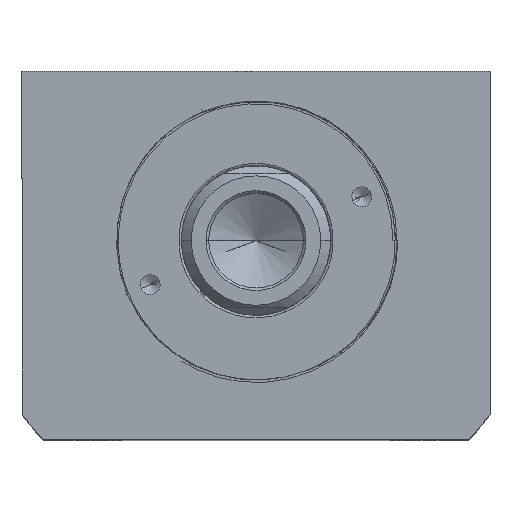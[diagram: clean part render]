
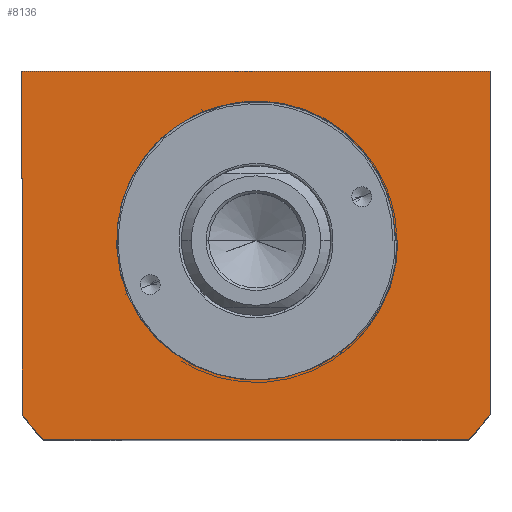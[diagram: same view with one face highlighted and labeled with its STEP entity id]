
A CAD part, top view. The second image highlights one B-rep face of the part: STEP entity #8136.
In plain terms, the highlighted planar face has unit normal (0, 0, 1).
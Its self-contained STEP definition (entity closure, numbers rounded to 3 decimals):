
#127 = EDGE_CURVE ( 'NONE', #10677, #7748, #6774, .T. ) ;
#286 = AXIS2_PLACEMENT_3D ( 'NONE', #10711, #1238, #2846 ) ;
#429 = VECTOR ( 'NONE', #9412, 1000. ) ;
#569 = CARTESIAN_POINT ( 'NONE',  ( 26.163, -10.961, 45. ) ) ;
#977 = EDGE_CURVE ( 'NONE', #6160, #10677, #10344, .T. ) ;
#1022 = DIRECTION ( 'NONE',  ( 1., 0., 0. ) ) ;
#1141 = EDGE_LOOP ( 'NONE', ( #9717, #8484, #10401 ) ) ;
#1238 = DIRECTION ( 'NONE',  ( 0., 0., 1. ) ) ;
#1354 = CARTESIAN_POINT ( 'NONE',  ( 28., 0., 45. ) ) ;
#1445 = VERTEX_POINT ( 'NONE', #7553 ) ;
#1448 = AXIS2_PLACEMENT_3D ( 'NONE', #2488, #5124, #1022 ) ;
#1878 = LINE ( 'NONE', #7265, #11110 ) ;
#1900 = EDGE_CURVE ( 'NONE', #1445, #11018, #7929, .T. ) ;
#1998 = CARTESIAN_POINT ( 'NONE',  ( 10.232, -26.064, 45. ) ) ;
#2030 = DIRECTION ( 'NONE',  ( 0., 0., 1. ) ) ;
#2150 = CIRCLE ( 'NONE', #1448, 28. ) ;
#2287 = DIRECTION ( 'NONE',  ( 1., 0., 0. ) ) ;
#2311 = CARTESIAN_POINT ( 'NONE',  ( 20.224, -19.631, 45. ) ) ;
#2488 = CARTESIAN_POINT ( 'NONE',  ( 0., 0., 45. ) ) ;
#2580 = DIRECTION ( 'NONE',  ( 0., 1., 0. ) ) ;
#2680 = DIRECTION ( 'NONE',  ( 0., -1., 0. ) ) ;
#2778 = CARTESIAN_POINT ( 'NONE',  ( 0., 0., 45. ) ) ;
#2846 = DIRECTION ( 'NONE',  ( 1., 0., 0. ) ) ;
#2943 = EDGE_CURVE ( 'NONE', #9988, #6160, #3425, .T. ) ;
#2975 = DIRECTION ( 'NONE',  ( -1., 0., 0. ) ) ;
#3098 = CARTESIAN_POINT ( 'NONE',  ( 24.898, -13.504, 45. ) ) ;
#3170 = CARTESIAN_POINT ( 'NONE',  ( 18.667, -21.077, 45. ) ) ;
#3217 = CARTESIAN_POINT ( 'NONE',  ( 28.323, -2.832, 45. ) ) ;
#3409 = EDGE_CURVE ( 'NONE', #4649, #9988, #10207, .T. ) ;
#3425 = LINE ( 'NONE', #6939, #6683 ) ;
#3524 = LINE ( 'NONE', #5717, #6762 ) ;
#4039 = CARTESIAN_POINT ( 'NONE',  ( 27.555, -6.99, 45. ) ) ;
#4098 = DIRECTION ( 'NONE',  ( 1., 0., 0. ) ) ;
#4114 = CARTESIAN_POINT ( 'NONE',  ( 13.459, -24.624, 45. ) ) ;
#4231 = CARTESIAN_POINT ( 'NONE',  ( 42.688, -40., 45. ) ) ;
#4400 = CARTESIAN_POINT ( 'NONE',  ( 47., -34.832, 45. ) ) ;
#4406 = ORIENTED_EDGE ( 'NONE', *, *, #2943, .T. ) ;
#4454 = CARTESIAN_POINT ( 'NONE',  ( -47., -34.832, 45. ) ) ;
#4617 = AXIS2_PLACEMENT_3D ( 'NONE', #2778, #2030, #4655 ) ;
#4649 = VERTEX_POINT ( 'NONE', #4231 ) ;
#4655 = DIRECTION ( 'NONE',  ( 1., 0., 0. ) ) ;
#4689 = AXIS2_PLACEMENT_3D ( 'NONE', #8362, #10572, #2287 ) ;
#4871 = CARTESIAN_POINT ( 'NONE',  ( 28.449, -1.419, 45. ) ) ;
#5023 = CARTESIAN_POINT ( 'NONE',  ( 10.232, -26.064, 45. ) ) ;
#5124 = DIRECTION ( 'NONE',  ( 0., 0., -1. ) ) ;
#5660 = CARTESIAN_POINT ( 'NONE',  ( 28.233, -3.538, 45. ) ) ;
#5696 = CARTESIAN_POINT ( 'NONE',  ( 28.495, 0., 45. ) ) ;
#5717 = CARTESIAN_POINT ( 'NONE',  ( 42.688, -40., 45. ) ) ;
#5852 = CARTESIAN_POINT ( 'NONE',  ( 11.542, -25.544, 45. ) ) ;
#5949 = CARTESIAN_POINT ( 'NONE',  ( -42.688, -40., 45. ) ) ;
#6052 = CARTESIAN_POINT ( 'NONE',  ( -47., 34., 45. ) ) ;
#6131 = EDGE_CURVE ( 'NONE', #7748, #6428, #7595, .T. ) ;
#6160 = VERTEX_POINT ( 'NONE', #6697 ) ;
#6365 = EDGE_CURVE ( 'NONE', #6428, #4649, #3524, .T. ) ;
#6428 = VERTEX_POINT ( 'NONE', #5949 ) ;
#6587 = CARTESIAN_POINT ( 'NONE',  ( 24.178, -14.712, 45. ) ) ;
#6633 = CARTESIAN_POINT ( 'NONE',  ( 27.887, -5.628, 45. ) ) ;
#6683 = VECTOR ( 'NONE', #2580, 1000. ) ;
#6697 = CARTESIAN_POINT ( 'NONE',  ( 47., 34., 45. ) ) ;
#6762 = VECTOR ( 'NONE', #4098, 1000. ) ;
#6774 = LINE ( 'NONE', #4454, #8539 ) ;
#6885 = FACE_BOUND ( 'NONE', #1141, .T. ) ;
#6939 = CARTESIAN_POINT ( 'NONE',  ( 47., 34., 45. ) ) ;
#7019 = FACE_OUTER_BOUND ( 'NONE', #7076, .T. ) ;
#7076 = EDGE_LOOP ( 'NONE', ( #8031, #9932, #10118, #9842, #7897, #4406 ) ) ;
#7256 = PLANE ( 'NONE',  #4617 ) ;
#7265 = CARTESIAN_POINT ( 'NONE',  ( 0., 0., 45. ) ) ;
#7463 = CARTESIAN_POINT ( 'NONE',  ( 22.571, -17.007, 45. ) ) ;
#7506 = CARTESIAN_POINT ( 'NONE',  ( 21.684, -18.094, 45. ) ) ;
#7553 = CARTESIAN_POINT ( 'NONE',  ( 28.495, 0., 45. ) ) ;
#7584 = CARTESIAN_POINT ( 'NONE',  ( 12.831, -24.945, 45. ) ) ;
#7595 = CIRCLE ( 'NONE', #4689, 58.5 ) ;
#7748 = VERTEX_POINT ( 'NONE', #10040 ) ;
#7897 = ORIENTED_EDGE ( 'NONE', *, *, #3409, .T. ) ;
#7929 = B_SPLINE_CURVE_WITH_KNOTS ( 'NONE', 3,
 ( #5696, #10896, #4871, #3217, #5660, #6633, #4039, #10168, #569, #3098, #6587, #7463, #7506, #2311, #8368, #3170, #9262, #10127, #11012, #4114, #7584, #5852, #11124, #5023 ),
 .UNSPECIFIED., .F., .F.,
 ( 4, 2, 2, 2, 2, 2, 2, 2, 2, 2, 2, 4 ),
 ( 0., 0.002, 0.004, 0.009, 0.013, 0.017, 0.021, 0.023, 0.026, 0.03, 0.032, 0.034 ),
 .UNSPECIFIED. ) ;
#7967 = EDGE_CURVE ( 'NONE', #11018, #9184, #2150, .T. ) ;
#8031 = ORIENTED_EDGE ( 'NONE', *, *, #977, .T. ) ;
#8136 = ADVANCED_FACE ( 'NONE', ( #6885, #7019 ), #7256, .T. ) ;
#8362 = CARTESIAN_POINT ( 'NONE',  ( 0., 0., 45. ) ) ;
#8368 = CARTESIAN_POINT ( 'NONE',  ( 19.714, -20.129, 45. ) ) ;
#8484 = ORIENTED_EDGE ( 'NONE', *, *, #1900, .T. ) ;
#8539 = VECTOR ( 'NONE', #2680, 1000. ) ;
#8950 = EDGE_CURVE ( 'NONE', #1445, #9184, #1878, .T. ) ;
#9184 = VERTEX_POINT ( 'NONE', #1354 ) ;
#9262 = CARTESIAN_POINT ( 'NONE',  ( 18.129, -21.529, 45. ) ) ;
#9412 = DIRECTION ( 'NONE',  ( -1., 0., 0. ) ) ;
#9717 = ORIENTED_EDGE ( 'NONE', *, *, #8950, .F. ) ;
#9842 = ORIENTED_EDGE ( 'NONE', *, *, #6365, .T. ) ;
#9932 = ORIENTED_EDGE ( 'NONE', *, *, #127, .T. ) ;
#9988 = VERTEX_POINT ( 'NONE', #4400 ) ;
#10040 = CARTESIAN_POINT ( 'NONE',  ( -47., -34.832, 45. ) ) ;
#10118 = ORIENTED_EDGE ( 'NONE', *, *, #6131, .T. ) ;
#10127 = CARTESIAN_POINT ( 'NONE',  ( 16.467, -22.819, 45. ) ) ;
#10168 = CARTESIAN_POINT ( 'NONE',  ( 26.694, -9.657, 45. ) ) ;
#10207 = CIRCLE ( 'NONE', #286, 58.5 ) ;
#10277 = CARTESIAN_POINT ( 'NONE',  ( -47., 34., 45. ) ) ;
#10344 = LINE ( 'NONE', #10277, #429 ) ;
#10401 = ORIENTED_EDGE ( 'NONE', *, *, #7967, .T. ) ;
#10572 = DIRECTION ( 'NONE',  ( 0., 0., 1. ) ) ;
#10677 = VERTEX_POINT ( 'NONE', #6052 ) ;
#10711 = CARTESIAN_POINT ( 'NONE',  ( 0., 0., 45. ) ) ;
#10896 = CARTESIAN_POINT ( 'NONE',  ( 28.485, -0.71, 45. ) ) ;
#11012 = CARTESIAN_POINT ( 'NONE',  ( 15.3, -23.593, 45. ) ) ;
#11018 = VERTEX_POINT ( 'NONE', #1998 ) ;
#11110 = VECTOR ( 'NONE', #2975, 1000. ) ;
#11124 = CARTESIAN_POINT ( 'NONE',  ( 10.89, -25.816, 45. ) ) ;
